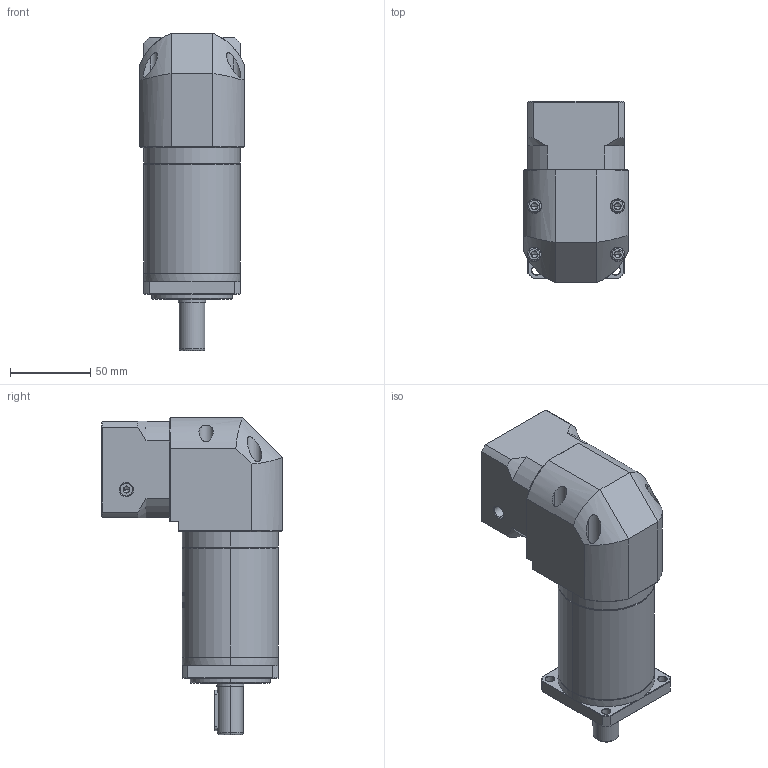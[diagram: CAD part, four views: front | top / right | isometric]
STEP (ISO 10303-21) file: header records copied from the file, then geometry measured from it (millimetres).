
FILE_DESCRIPTION (( 'STEP AP214' ), '1' );
FILE_NAME ('ZFR060-D16-L3-P2-8-38.1-47.14x47.14-M4.step', '2023-08-17T03:36:45', ( '' ), ( '' ), 'SwSTEP 2.0', 'SolidWorks 2016', '' );
FILE_SCHEMA (( 'AUTOMOTIVE_DESIGN' ));
Length unit declared in the file: millimetre
Products named in the file (1): ZFR060-D16-L3-P2-8-38.1-47.14x47.14-M4
Bounding box: 65 x 112.7 x 197.5 mm (x, y, z)
Volume: 642367.2 mm3; surface area: 86513.3 mm2
Topology: 5 solids, 6 shells, 1917 faces, 5135 edges, 3316 vertices
Faces by surface type: plane 848, cylinder 401, bspline 354, cone 290, torus 24
Entity records: 104299 total; most frequent: CARTESIAN_POINT 39423, ORIENTED_EDGE 10226, DIRECTION 7664, EDGE_CURVE 5113, VERTEX_POINT 3316, LINE 2596, VECTOR 2596, AXIS2_PLACEMENT_3D 2534
